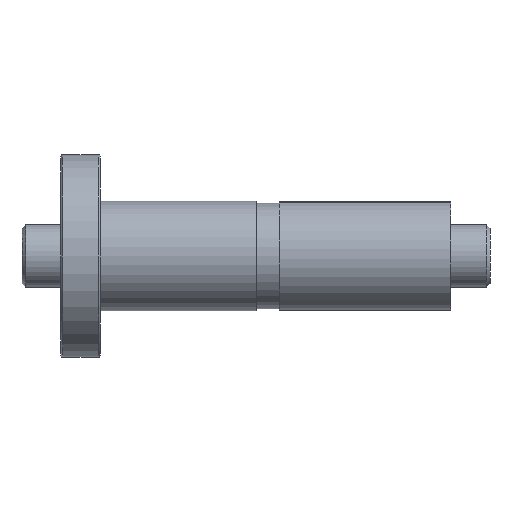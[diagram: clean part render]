
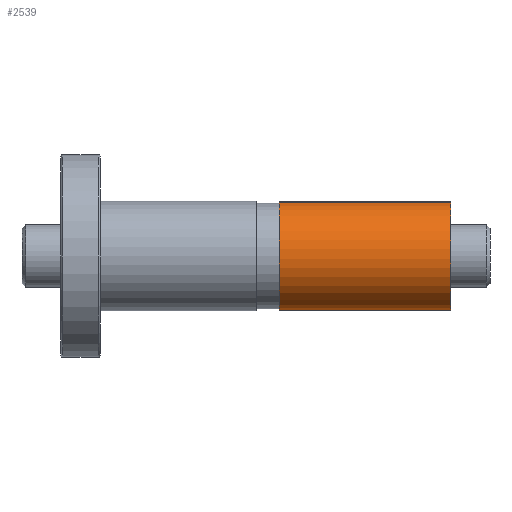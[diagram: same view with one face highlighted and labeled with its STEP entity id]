
A CAD part, front view. The second image highlights one B-rep face of the part: STEP entity #2539.
In plain terms, the highlighted cylindrical face has radius 14 mm (diameter 28 mm), a partial arc.
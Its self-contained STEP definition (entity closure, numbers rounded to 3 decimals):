
#166 = LINE ( 'NONE', #2629, #214 ) ;
#214 = VECTOR ( 'NONE', #1943, 1000. ) ;
#334 = VERTEX_POINT ( 'NONE', #1028 ) ;
#574 = CIRCLE ( 'NONE', #4206, 14. ) ;
#675 = EDGE_CURVE ( 'NONE', #3134, #334, #166, .T. ) ;
#812 = DIRECTION ( 'NONE',  ( 1., 0., 0. ) ) ;
#875 = LINE ( 'NONE', #2738, #2446 ) ;
#1028 = CARTESIAN_POINT ( 'NONE',  ( 56., -3.136, 13.644 ) ) ;
#1203 = EDGE_CURVE ( 'NONE', #334, #2097, #574, .T. ) ;
#1475 = DIRECTION ( 'NONE',  ( -1., 0., 0. ) ) ;
#1833 = CYLINDRICAL_SURFACE ( 'NONE', #3255, 14. ) ;
#1850 = CARTESIAN_POINT ( 'NONE',  ( 100., 0., 0. ) ) ;
#1864 = DIRECTION ( 'NONE',  ( 0., 0.224, -0.975 ) ) ;
#1933 = FACE_OUTER_BOUND ( 'NONE', #3458, .T. ) ;
#1943 = DIRECTION ( 'NONE',  ( -1., 0., 0. ) ) ;
#2071 = VERTEX_POINT ( 'NONE', #4136 ) ;
#2097 = VERTEX_POINT ( 'NONE', #2120 ) ;
#2120 = CARTESIAN_POINT ( 'NONE',  ( 56., 3.136, -13.644 ) ) ;
#2423 = ORIENTED_EDGE ( 'NONE', *, *, #2505, .F. ) ;
#2446 = VECTOR ( 'NONE', #1475, 1000. ) ;
#2505 = EDGE_CURVE ( 'NONE', #2071, #2097, #875, .T. ) ;
#2539 = ADVANCED_FACE ( 'NONE', ( #1933 ), #1833, .T. ) ;
#2555 = DIRECTION ( 'NONE',  ( 1., 0., 0. ) ) ;
#2629 = CARTESIAN_POINT ( 'NONE',  ( 100., -3.136, 13.644 ) ) ;
#2738 = CARTESIAN_POINT ( 'NONE',  ( 100., 3.136, -13.644 ) ) ;
#3055 = AXIS2_PLACEMENT_3D ( 'NONE', #3889, #2555, #1864 ) ;
#3056 = ORIENTED_EDGE ( 'NONE', *, *, #4122, .F. ) ;
#3106 = DIRECTION ( 'NONE',  ( 0., 0.224, -0.975 ) ) ;
#3132 = DIRECTION ( 'NONE',  ( -1., 0., 0. ) ) ;
#3134 = VERTEX_POINT ( 'NONE', #3883 ) ;
#3162 = CIRCLE ( 'NONE', #3055, 14. ) ;
#3255 = AXIS2_PLACEMENT_3D ( 'NONE', #1850, #3132, #4157 ) ;
#3423 = ORIENTED_EDGE ( 'NONE', *, *, #1203, .T. ) ;
#3441 = CARTESIAN_POINT ( 'NONE',  ( 56., 0., 0. ) ) ;
#3458 = EDGE_LOOP ( 'NONE', ( #2423, #3056, #3504, #3423 ) ) ;
#3504 = ORIENTED_EDGE ( 'NONE', *, *, #675, .T. ) ;
#3883 = CARTESIAN_POINT ( 'NONE',  ( 100., -3.136, 13.644 ) ) ;
#3889 = CARTESIAN_POINT ( 'NONE',  ( 100., 0., 0. ) ) ;
#4122 = EDGE_CURVE ( 'NONE', #3134, #2071, #3162, .T. ) ;
#4136 = CARTESIAN_POINT ( 'NONE',  ( 100., 3.136, -13.644 ) ) ;
#4157 = DIRECTION ( 'NONE',  ( 0., -0.224, 0.975 ) ) ;
#4206 = AXIS2_PLACEMENT_3D ( 'NONE', #3441, #812, #3106 ) ;
